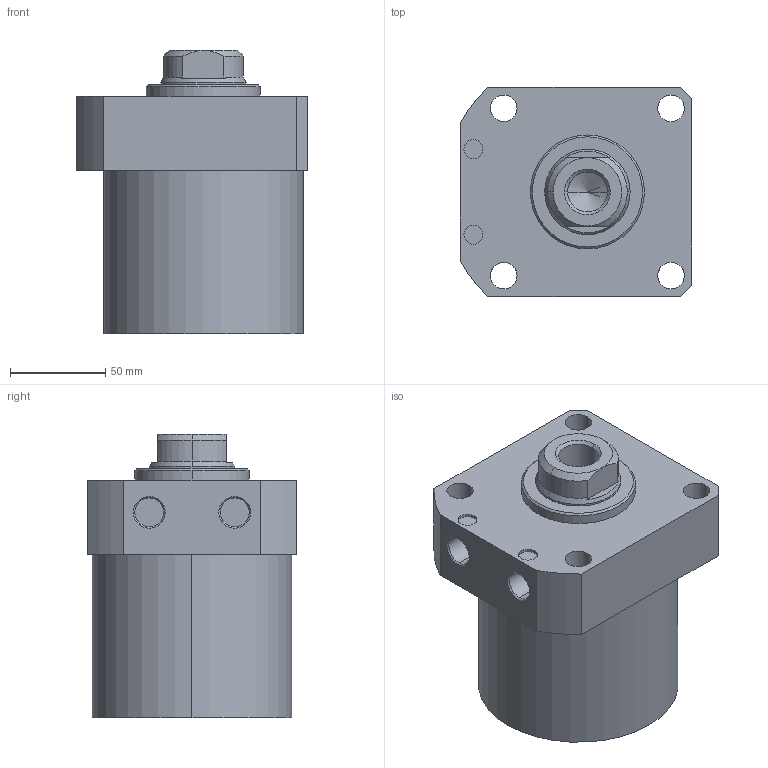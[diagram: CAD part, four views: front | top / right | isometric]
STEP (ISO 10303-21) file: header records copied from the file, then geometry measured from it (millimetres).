
FILE_DESCRIPTION (( 'STEP AP203' ), '1' );
FILE_NAME ('CLLR-105CA-065.STEP', '2019-12-19T01:34:48', ( '' ), ( '' ), 'SwSTEP 2.0', 'SolidWorks 2015', '' );
FILE_SCHEMA (( 'CONFIG_CONTROL_DESIGN' ));
Length unit declared in the file: millimetre
Products named in the file (1): CLLR-105CA-065
Bounding box: 122 x 110 x 149 mm (x, y, z)
Volume: 1246820.9 mm3; surface area: 86012.2 mm2
Topology: 1 solids, 1 shells, 63 faces, 146 edges, 91 vertices
Faces by surface type: cylinder 29, plane 19, cone 15
Entity records: 1923 total; most frequent: CARTESIAN_POINT 355, DIRECTION 336, ORIENTED_EDGE 288, EDGE_CURVE 144, AXIS2_PLACEMENT_3D 136, VERTEX_POINT 91, EDGE_LOOP 79, CIRCLE 72
